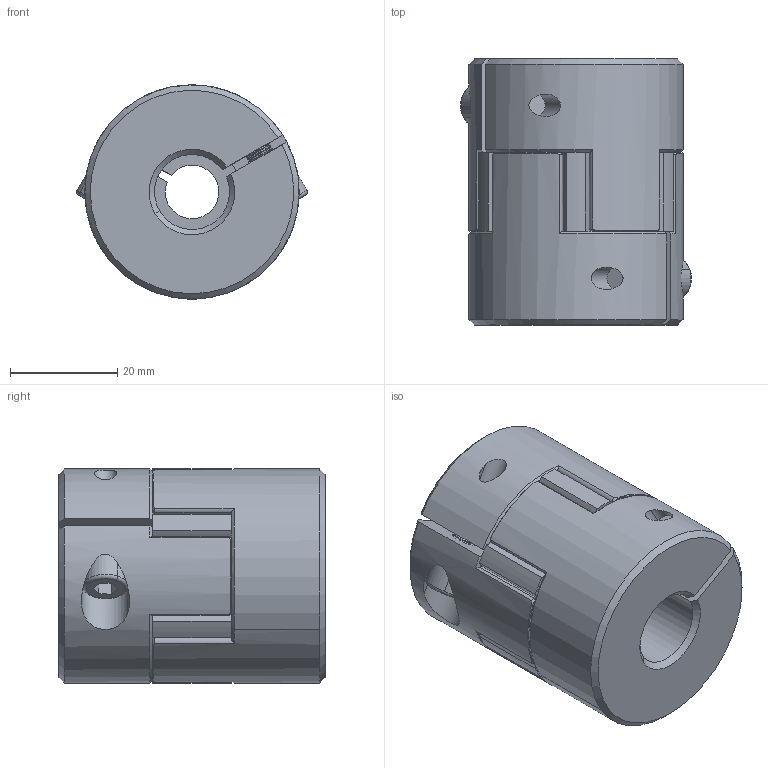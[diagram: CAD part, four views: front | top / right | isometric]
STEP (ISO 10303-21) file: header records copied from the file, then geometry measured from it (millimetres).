
FILE_DESCRIPTION (( 'STEP AP203' ), '1' );
FILE_NAME ('LF-B-D40L50-10-14.STEP', '2021-10-25T02:39:02', ( '' ), ( '' ), 'SwSTEP 2.0', 'SolidWorks 2018', '' );
FILE_SCHEMA (( 'CONFIG_CONTROL_DESIGN' ));
Length unit declared in the file: millimetre
Products named in the file (1): LF-B-D40L50-10-14
Bounding box: 43.11 x 49.7 x 40 mm (x, y, z)
Volume: 52817.4 mm3; surface area: 14654.5 mm2
Topology: 1 solids, 7 shells, 471 faces, 1117 edges, 662 vertices
Faces by surface type: cone 170, cylinder 169, plane 128, torus 4
Entity records: 13972 total; most frequent: CARTESIAN_POINT 2895, DIRECTION 2509, ORIENTED_EDGE 2226, EDGE_CURVE 1113, AXIS2_PLACEMENT_3D 1040, VERTEX_POINT 662, CIRCLE 568, EDGE_LOOP 487
